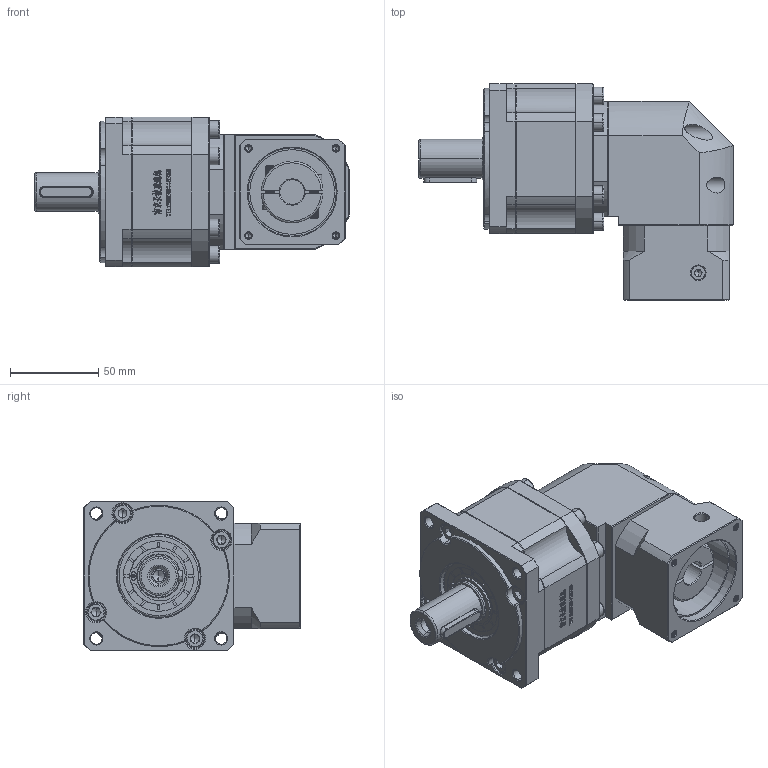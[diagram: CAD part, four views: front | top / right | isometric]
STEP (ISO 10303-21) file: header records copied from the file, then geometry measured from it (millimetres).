
FILE_DESCRIPTION (( 'STEP AP214' ), '1' );
FILE_NAME ('ZBR90-D22-L2-14-50-70-M4.step', '2022-05-07T15:19:48', ( '' ), ( 'Microsoft' ), 'SwSTEP 2.0', 'SolidWorks 2016', '' );
FILE_SCHEMA (( 'AUTOMOTIVE_DESIGN' ));
Length unit declared in the file: millimetre
Products named in the file (1): ZBR90-D22-L2-14-50-70-M4
Bounding box: 178.5 x 122.7 x 85 mm (x, y, z)
Volume: 801943.9 mm3; surface area: 99342.8 mm2
Topology: 5 solids, 5 shells, 3031 faces, 8110 edges, 5223 vertices
Faces by surface type: plane 1598, bspline 620, cylinder 437, cone 368, torus 8
Entity records: 161261 total; most frequent: CARTESIAN_POINT 56916, ORIENTED_EDGE 16128, DIRECTION 12387, EDGE_CURVE 8064, LINE 5329, VECTOR 5329, VERTEX_POINT 5223, AXIS2_PLACEMENT_3D 3529
